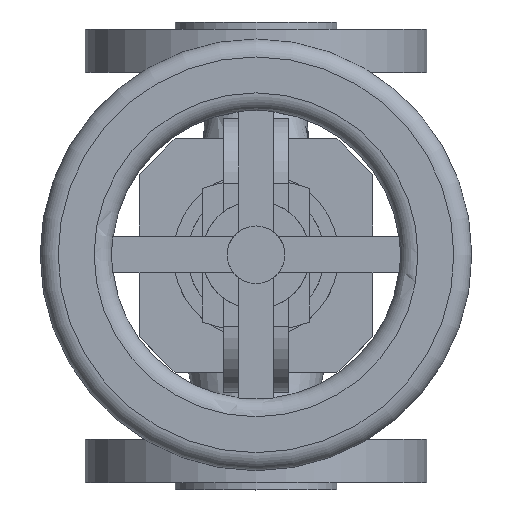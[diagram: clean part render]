
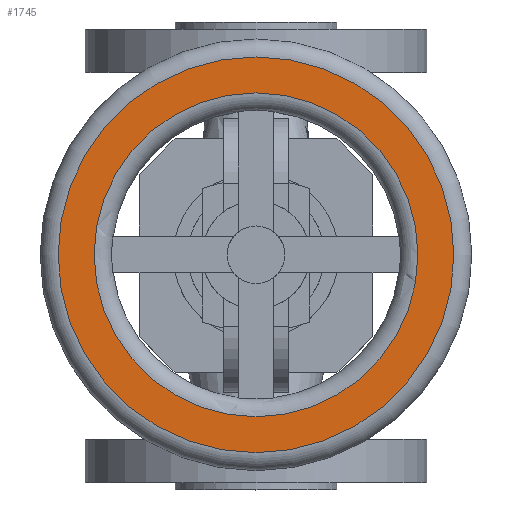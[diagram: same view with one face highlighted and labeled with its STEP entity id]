
A CAD part, top view. The second image highlights one B-rep face of the part: STEP entity #1745.
In plain terms, the highlighted planar face has unit normal (0, 0, 1).
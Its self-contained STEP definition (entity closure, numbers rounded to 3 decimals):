
#1745=ADVANCED_FACE('',(#12868,#12870),#12872,.T.);
#12868=FACE_BOUND('',#12869,.T.);
#12869=EDGE_LOOP('',(#13860));
#12870=FACE_BOUND('',#12871,.T.);
#12871=EDGE_LOOP('',(#13861));
#12872=PLANE('',#12873);
#12873=AXIS2_PLACEMENT_3D('',#12874,#12875,#12876);
#12874=CARTESIAN_POINT('',(0.,0.,189.));
#12875=DIRECTION('',(0.,0.,1.));
#12876=DIRECTION('',(0.,1.,0.));
#13860=ORIENTED_EDGE('',*,*,#14347,.F.);
#13861=ORIENTED_EDGE('',*,*,#14321,.T.);
#14321=EDGE_CURVE('',#15125,#15125,#15126,.T.);
#14347=EDGE_CURVE('',#15165,#15165,#15166,.T.);
#15125=VERTEX_POINT('',#20435);
#15126=CIRCLE('',#20436,45.);
#15165=VERTEX_POINT('',#20533);
#15166=CIRCLE('',#20534,55.);
#20435=CARTESIAN_POINT('',(0.,45.,189.));
#20436=AXIS2_PLACEMENT_3D('',#20437,#20438,#20439);
#20437=CARTESIAN_POINT('',(0.,0.,189.));
#20438=DIRECTION('',(0.,0.,-1.));
#20439=DIRECTION('',(0.,1.,0.));
#20533=CARTESIAN_POINT('',(0.,55.,189.));
#20534=AXIS2_PLACEMENT_3D('',#20535,#20536,#20537);
#20535=CARTESIAN_POINT('',(0.,0.,189.));
#20536=DIRECTION('',(0.,0.,-1.));
#20537=DIRECTION('',(0.,1.,0.));
